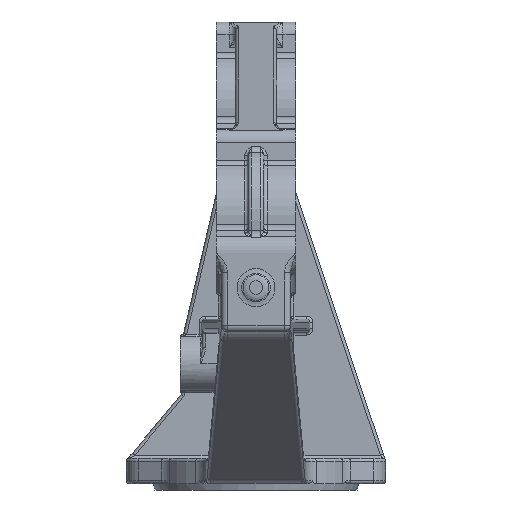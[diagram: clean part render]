
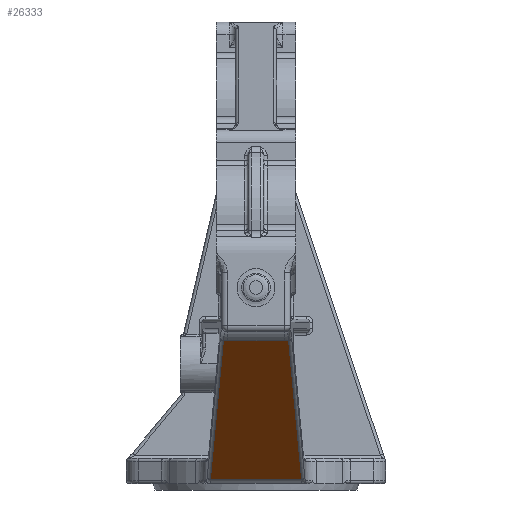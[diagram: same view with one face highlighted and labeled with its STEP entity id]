
A CAD part, left-side view. The second image highlights one B-rep face of the part: STEP entity #26333.
In plain terms, the highlighted planar face has unit normal (-0.566, 0, -0.825).
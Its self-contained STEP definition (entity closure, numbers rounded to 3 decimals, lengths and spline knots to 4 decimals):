
#99=ELLIPSE('',#27811,1.9893,1.125);
#118=ELLIPSE('',#28162,1.9893,1.125);
#2306=PLANE('',#28492);
#3484=FACE_OUTER_BOUND('',#5128,.T.);
#5128=EDGE_LOOP('',(#22359,#22360,#22361,#22362,#22363,#22364));
#6699=LINE('',#49747,#8369);
#6808=LINE('',#52001,#8478);
#6817=LINE('',#52173,#8487);
#6918=LINE('',#54165,#8588);
#8369=VECTOR('',#32381,0.3937);
#8478=VECTOR('',#33182,0.3937);
#8487=VECTOR('',#33273,0.3937);
#8588=VECTOR('',#33952,0.3937);
#11732=VERTEX_POINT('',#49697);
#11741=VERTEX_POINT('',#49745);
#11756=VERTEX_POINT('',#49932);
#11935=VERTEX_POINT('',#51951);
#11944=VERTEX_POINT('',#51999);
#11960=VERTEX_POINT('',#52170);
#14896=EDGE_CURVE('',#11741,#11732,#6699,.T.);
#14929=EDGE_CURVE('',#11732,#11756,#99,.T.);
#15273=EDGE_CURVE('',#11944,#11935,#6808,.T.);
#15309=EDGE_CURVE('',#11960,#11756,#6817,.T.);
#15311=EDGE_CURVE('',#11935,#11960,#118,.T.);
#15637=EDGE_CURVE('',#11741,#11944,#6918,.T.);
#22359=ORIENTED_EDGE('',*,*,#15273,.T.);
#22360=ORIENTED_EDGE('',*,*,#15311,.T.);
#22361=ORIENTED_EDGE('',*,*,#15309,.T.);
#22362=ORIENTED_EDGE('',*,*,#14929,.F.);
#22363=ORIENTED_EDGE('',*,*,#14896,.F.);
#22364=ORIENTED_EDGE('',*,*,#15637,.T.);
#26333=ADVANCED_FACE('',(#3484),#2306,.F.);
#27811=AXIS2_PLACEMENT_3D('',#49933,#32463,#32464);
#28162=AXIS2_PLACEMENT_3D('',#52195,#33276,#33277);
#28492=AXIS2_PLACEMENT_3D('',#54252,#34060,#34061);
#32381=DIRECTION('',(-0.824,-0.053,0.565));
#32463=DIRECTION('center_axis',(-0.566,0.,-0.825));
#32464=DIRECTION('ref_axis',(0.825,0.,-0.566));
#33182=DIRECTION('',(-0.824,0.053,0.565));
#33273=DIRECTION('',(0.,1.,0.));
#33276=DIRECTION('center_axis',(0.566,0.,0.825));
#33277=DIRECTION('ref_axis',(0.825,0.,-0.566));
#33952=DIRECTION('',(0.,-1.,0.));
#34060=DIRECTION('center_axis',(0.566,0.,0.825));
#34061=DIRECTION('ref_axis',(0.825,0.,-0.566));
#49697=CARTESIAN_POINT('',(-6.3736,0.6433,2.9526));
#49745=CARTESIAN_POINT('',(-2.3618,0.9014,0.2017));
#49747=CARTESIAN_POINT('',(-5.9107,0.6731,2.6352));
#49932=CARTESIAN_POINT('',(-6.3694,0.5625,2.9497));
#49933=CARTESIAN_POINT('Origin',(-8.01,0.5625,4.0747));
#51951=CARTESIAN_POINT('',(-6.3736,-0.6433,2.9526));
#51999=CARTESIAN_POINT('',(-2.3618,-0.9014,0.2017));
#52001=CARTESIAN_POINT('',(-5.9107,-0.6731,2.6352));
#52170=CARTESIAN_POINT('',(-6.3694,-0.5625,2.9497));
#52173=CARTESIAN_POINT('',(-6.3694,0.,2.9497));
#52195=CARTESIAN_POINT('Origin',(-8.01,-0.5625,4.0747));
#54165=CARTESIAN_POINT('',(-2.3618,0.,0.2017));
#54252=CARTESIAN_POINT('Origin',(-6.625,0.,3.125));
